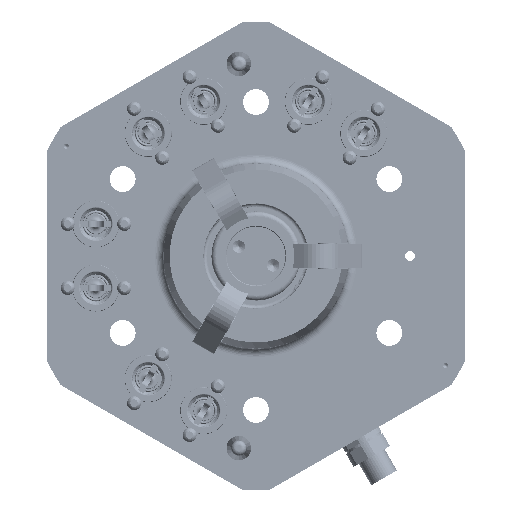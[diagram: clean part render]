
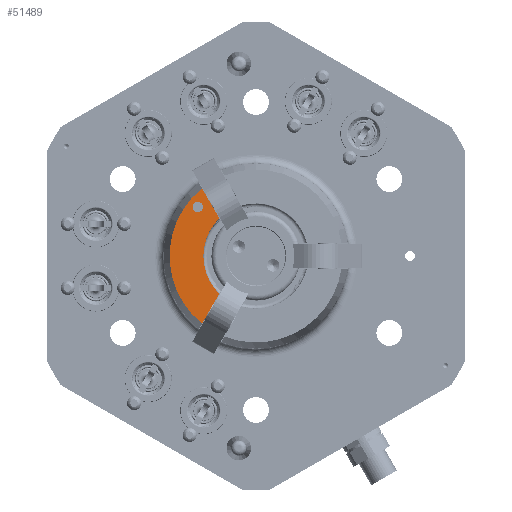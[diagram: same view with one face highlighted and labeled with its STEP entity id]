
A CAD part, front view. The second image highlights one B-rep face of the part: STEP entity #51489.
In plain terms, the highlighted planar face has unit normal (0, -1, 0).
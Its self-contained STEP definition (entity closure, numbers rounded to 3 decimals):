
#1382 = CARTESIAN_POINT ( 'NONE',  ( 0., -44.5, 0. ) ) ;
#1974 = ORIENTED_EDGE ( 'NONE', *, *, #13341, .T. ) ;
#11974 = EDGE_LOOP ( 'NONE', ( #16471, #1974, #55432, #54696 ) ) ;
#13341 = EDGE_CURVE ( 'NONE', #73241, #44235, #20538, .T. ) ;
#14391 = CARTESIAN_POINT ( 'NONE',  ( 0., -44.5, 0. ) ) ;
#14768 = DIRECTION ( 'NONE',  ( 0., 0., -1. ) ) ;
#16471 = ORIENTED_EDGE ( 'NONE', *, *, #25129, .F. ) ;
#16862 = VERTEX_POINT ( 'NONE', #18319 ) ;
#17356 = CARTESIAN_POINT ( 'NONE',  ( -21.901, -44.5, -27.434 ) ) ;
#17424 = ORIENTED_EDGE ( 'NONE', *, *, #49519, .F. ) ;
#18319 = CARTESIAN_POINT ( 'NONE',  ( -23.624, -44.5, 17.818 ) ) ;
#20538 = CIRCLE ( 'NONE', #41540, 35.104 ) ;
#25129 = EDGE_CURVE ( 'NONE', #73241, #58118, #75621, .T. ) ;
#25380 = DIRECTION ( 'NONE',  ( 0.5, 0., -0.866 ) ) ;
#26177 = AXIS2_PLACEMENT_3D ( 'NONE', #28719, #27516, #14768 ) ;
#26326 = DIRECTION ( 'NONE',  ( 0., 0., -1. ) ) ;
#27516 = DIRECTION ( 'NONE',  ( 0., -1., 0. ) ) ;
#28003 = CARTESIAN_POINT ( 'NONE',  ( -23.624, -44.5, 22.018 ) ) ;
#28184 = CARTESIAN_POINT ( 'NONE',  ( -14.902, -44.5, 15.31 ) ) ;
#28719 = CARTESIAN_POINT ( 'NONE',  ( -23.624, -44.5, 19.918 ) ) ;
#29381 = CARTESIAN_POINT ( 'NONE',  ( -23.624, -44.5, 19.918 ) ) ;
#30611 = DIRECTION ( 'NONE',  ( 0., 0., -1. ) ) ;
#30787 = CARTESIAN_POINT ( 'NONE',  ( -14.902, -44.5, -15.31 ) ) ;
#31045 = DIRECTION ( 'NONE',  ( 0., 0., -1. ) ) ;
#32363 = CIRCLE ( 'NONE', #73103, 2.1 ) ;
#33337 = VERTEX_POINT ( 'NONE', #28003 ) ;
#34341 = ORIENTED_EDGE ( 'NONE', *, *, #67352, .F. ) ;
#34578 = CARTESIAN_POINT ( 'NONE',  ( -21.901, -44.5, 27.434 ) ) ;
#40876 = AXIS2_PLACEMENT_3D ( 'NONE', #1382, #69054, #50118 ) ;
#41540 = AXIS2_PLACEMENT_3D ( 'NONE', #14391, #71219, #26326 ) ;
#43537 = FACE_BOUND ( 'NONE', #64770, .T. ) ;
#44235 = VERTEX_POINT ( 'NONE', #17356 ) ;
#45172 = CARTESIAN_POINT ( 'NONE',  ( -14.902, -44.5, 15.31 ) ) ;
#46081 = AXIS2_PLACEMENT_3D ( 'NONE', #75508, #49998, #31045 ) ;
#49519 = EDGE_CURVE ( 'NONE', #16862, #33337, #64325, .T. ) ;
#49998 = DIRECTION ( 'NONE',  ( 0., -1., 0. ) ) ;
#50118 = DIRECTION ( 'NONE',  ( 0., 0., -1. ) ) ;
#50423 = EDGE_CURVE ( 'NONE', #58118, #73684, #52633, .T. ) ;
#51489 = ADVANCED_FACE ( 'NONE', ( #43537, #71380 ), #70975, .T. ) ;
#52633 = CIRCLE ( 'NONE', #46081, 21.365 ) ;
#53075 = LINE ( 'NONE', #30787, #78026 ) ;
#54065 = EDGE_CURVE ( 'NONE', #73684, #44235, #53075, .T. ) ;
#54129 = VECTOR ( 'NONE', #25380, 1000. ) ;
#54696 = ORIENTED_EDGE ( 'NONE', *, *, #50423, .F. ) ;
#55432 = ORIENTED_EDGE ( 'NONE', *, *, #54065, .F. ) ;
#57586 = CARTESIAN_POINT ( 'NONE',  ( -14.902, -44.5, -15.31 ) ) ;
#58118 = VERTEX_POINT ( 'NONE', #28184 ) ;
#64325 = CIRCLE ( 'NONE', #26177, 2.1 ) ;
#64770 = EDGE_LOOP ( 'NONE', ( #17424, #34341 ) ) ;
#67052 = DIRECTION ( 'NONE',  ( -0.5, 0., -0.866 ) ) ;
#67352 = EDGE_CURVE ( 'NONE', #33337, #16862, #32363, .T. ) ;
#68090 = DIRECTION ( 'NONE',  ( 0., -1., 0. ) ) ;
#69054 = DIRECTION ( 'NONE',  ( 0., -1., 0. ) ) ;
#70975 = PLANE ( 'NONE',  #40876 ) ;
#71219 = DIRECTION ( 'NONE',  ( 0., -1., 0. ) ) ;
#71380 = FACE_OUTER_BOUND ( 'NONE', #11974, .T. ) ;
#73103 = AXIS2_PLACEMENT_3D ( 'NONE', #29381, #68090, #30611 ) ;
#73241 = VERTEX_POINT ( 'NONE', #34578 ) ;
#73684 = VERTEX_POINT ( 'NONE', #57586 ) ;
#75508 = CARTESIAN_POINT ( 'NONE',  ( 0., -44.5, 0. ) ) ;
#75621 = LINE ( 'NONE', #45172, #54129 ) ;
#78026 = VECTOR ( 'NONE', #67052, 1000. ) ;
